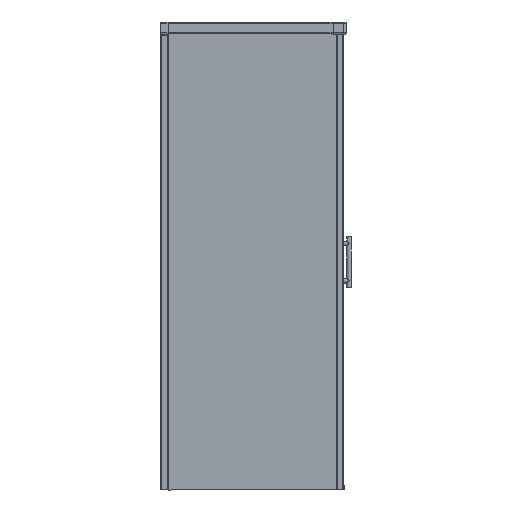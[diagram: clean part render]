
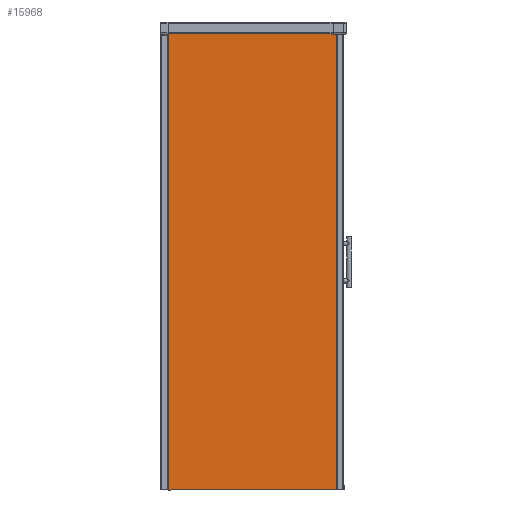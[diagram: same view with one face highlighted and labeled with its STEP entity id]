
A CAD part, front view. The second image highlights one B-rep face of the part: STEP entity #15968.
In plain terms, the highlighted planar face has unit normal (0, -1, 0).
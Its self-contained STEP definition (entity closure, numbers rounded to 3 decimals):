
#1444=FACE_OUTER_BOUND($,#2295,.T.);
#2295=EDGE_LOOP($,(#12054,#12055,#12056,#12057,#12058,#12059,#12060,#12061,
#12062,#12063,#12064,#12065,#12066,#12067));
#3525=LINE($,#24737,#5136);
#3534=LINE($,#24804,#5145);
#3553=LINE($,#24860,#5164);
#3566=LINE($,#24923,#5177);
#3624=LINE($,#25150,#5235);
#3628=LINE($,#25158,#5239);
#3629=LINE($,#25160,#5240);
#3630=LINE($,#25162,#5241);
#3631=LINE($,#25164,#5242);
#3632=LINE($,#25166,#5243);
#3633=LINE($,#25168,#5244);
#3634=LINE($,#25170,#5245);
#3635=LINE($,#25172,#5246);
#3636=LINE($,#25173,#5247);
#5136=VECTOR($,#19728,0.909);
#5145=VECTOR($,#19761,6.);
#5164=VECTOR($,#19800,0.391);
#5177=VECTOR($,#19835,1.);
#5235=VECTOR($,#20047,699.55);
#5239=VECTOR($,#20053,18.4);
#5240=VECTOR($,#20054,1.793);
#5241=VECTOR($,#20055,1925.);
#5242=VECTOR($,#20056,719.472);
#5243=VECTOR($,#20057,1948.3);
#5244=VECTOR($,#20058,15.216);
#5245=VECTOR($,#20059,0.1);
#5246=VECTOR($,#20060,5.2);
#5247=VECTOR($,#20061,2.);
#6698=VERTEX_POINT($,#24735);
#6699=VERTEX_POINT($,#24736);
#6715=VERTEX_POINT($,#24803);
#6738=VERTEX_POINT($,#24859);
#6757=VERTEX_POINT($,#24922);
#6817=VERTEX_POINT($,#25149);
#6820=VERTEX_POINT($,#25157);
#6821=VERTEX_POINT($,#25159);
#6822=VERTEX_POINT($,#25161);
#6823=VERTEX_POINT($,#25163);
#6824=VERTEX_POINT($,#25165);
#6825=VERTEX_POINT($,#25167);
#6826=VERTEX_POINT($,#25169);
#6827=VERTEX_POINT($,#25171);
#8523=EDGE_CURVE($,#6698,#6699,#3525,.T.);
#8543=EDGE_CURVE($,#6699,#6715,#3534,.T.);
#8569=EDGE_CURVE($,#6715,#6738,#3553,.T.);
#8592=EDGE_CURVE($,#6757,#6698,#3566,.T.);
#8693=EDGE_CURVE($,#6817,#6757,#3624,.T.);
#8697=EDGE_CURVE($,#6820,#6738,#3628,.T.);
#8698=EDGE_CURVE($,#6821,#6820,#3629,.T.);
#8699=EDGE_CURVE($,#6822,#6821,#3630,.T.);
#8700=EDGE_CURVE($,#6823,#6822,#3631,.T.);
#8701=EDGE_CURVE($,#6824,#6823,#3632,.T.);
#8702=EDGE_CURVE($,#6825,#6824,#3633,.T.);
#8703=EDGE_CURVE($,#6826,#6825,#3634,.T.);
#8704=EDGE_CURVE($,#6827,#6826,#3635,.T.);
#8705=EDGE_CURVE($,#6817,#6827,#3636,.T.);
#12054=ORIENTED_EDGE($,*,*,#8592,.T.);
#12055=ORIENTED_EDGE($,*,*,#8523,.T.);
#12056=ORIENTED_EDGE($,*,*,#8543,.T.);
#12057=ORIENTED_EDGE($,*,*,#8569,.T.);
#12058=ORIENTED_EDGE($,*,*,#8697,.F.);
#12059=ORIENTED_EDGE($,*,*,#8698,.F.);
#12060=ORIENTED_EDGE($,*,*,#8699,.F.);
#12061=ORIENTED_EDGE($,*,*,#8700,.F.);
#12062=ORIENTED_EDGE($,*,*,#8701,.F.);
#12063=ORIENTED_EDGE($,*,*,#8702,.F.);
#12064=ORIENTED_EDGE($,*,*,#8703,.F.);
#12065=ORIENTED_EDGE($,*,*,#8704,.F.);
#12066=ORIENTED_EDGE($,*,*,#8705,.F.);
#12067=ORIENTED_EDGE($,*,*,#8693,.T.);
#14520=PLANE($,#17070);
#15968=ADVANCED_FACE($,(#1444),#14520,.T.);
#17070=AXIS2_PLACEMENT_3D($,#25156,#20051,#20052);
#19728=DIRECTION($,(-1.,0.,0.));
#19761=DIRECTION($,(0.,0.,-1.));
#19800=DIRECTION($,(-1.,0.,0.));
#19835=DIRECTION($,(0.,0.,-1.));
#20047=DIRECTION($,(-1.,0.,0.));
#20051=DIRECTION('center_axis',(0.,-1.,0.));
#20052=DIRECTION('ref_axis',(1.,0.,0.));
#20053=DIRECTION($,(0.,0.,1.));
#20054=DIRECTION($,(-1.,0.,0.));
#20055=DIRECTION($,(0.,0.,1.));
#20056=DIRECTION($,(-1.,0.,0.));
#20057=DIRECTION($,(0.,0.,-1.));
#20058=DIRECTION($,(1.,0.,0.));
#20059=DIRECTION($,(0.,0.,-1.));
#20060=DIRECTION($,(1.,0.,0.));
#20061=DIRECTION($,(0.,0.,-1.));
#24735=CARTESIAN_POINT('',(1047.286,1682.143,1959.4));
#24736=CARTESIAN_POINT('',(1046.377,1682.143,1959.4));
#24737=CARTESIAN_POINT($,(1034.519,1682.143,1959.4));
#24803=CARTESIAN_POINT('',(1046.377,1682.143,1953.4));
#24804=CARTESIAN_POINT($,(1046.377,1682.143,982.2));
#24859=CARTESIAN_POINT('',(1045.986,1682.143,1953.4));
#24860=CARTESIAN_POINT($,(1026.502,1682.143,1953.4));
#24922=CARTESIAN_POINT('',(1047.286,1682.143,1960.4));
#24923=CARTESIAN_POINT($,(1047.286,1682.143,997.95));
#25149=CARTESIAN_POINT('',(1746.836,1682.143,1960.4));
#25150=CARTESIAN_POINT($,(1018.044,1682.143,1960.4));
#25156=CARTESIAN_POINT('Origin',(1021.752,1682.143,11.));
#25157=CARTESIAN_POINT('',(1045.986,1682.143,1935.));
#25158=CARTESIAN_POINT($,(1045.986,1682.143,10.5));
#25159=CARTESIAN_POINT('',(1047.779,1682.143,1935.));
#25160=CARTESIAN_POINT($,(1027.733,1682.143,1935.));
#25161=CARTESIAN_POINT('',(1047.779,1682.143,10.));
#25162=CARTESIAN_POINT($,(1047.779,1682.143,1935.));
#25163=CARTESIAN_POINT('',(1767.252,1682.143,10.));
#25164=CARTESIAN_POINT($,(1776.752,1682.143,10.));
#25165=CARTESIAN_POINT('',(1767.252,1682.143,1958.3));
#25166=CARTESIAN_POINT($,(1767.252,1682.143,10.5));
#25167=CARTESIAN_POINT('',(1752.036,1682.143,1958.3));
#25168=CARTESIAN_POINT($,(1401.602,1682.143,1958.3));
#25169=CARTESIAN_POINT('',(1752.036,1682.143,1958.4));
#25170=CARTESIAN_POINT($,(1752.036,1682.143,984.65));
#25171=CARTESIAN_POINT('',(1746.836,1682.143,1958.4));
#25172=CARTESIAN_POINT($,(1398.406,1682.143,1958.4));
#25173=CARTESIAN_POINT($,(1746.836,1682.143,1010.8));
